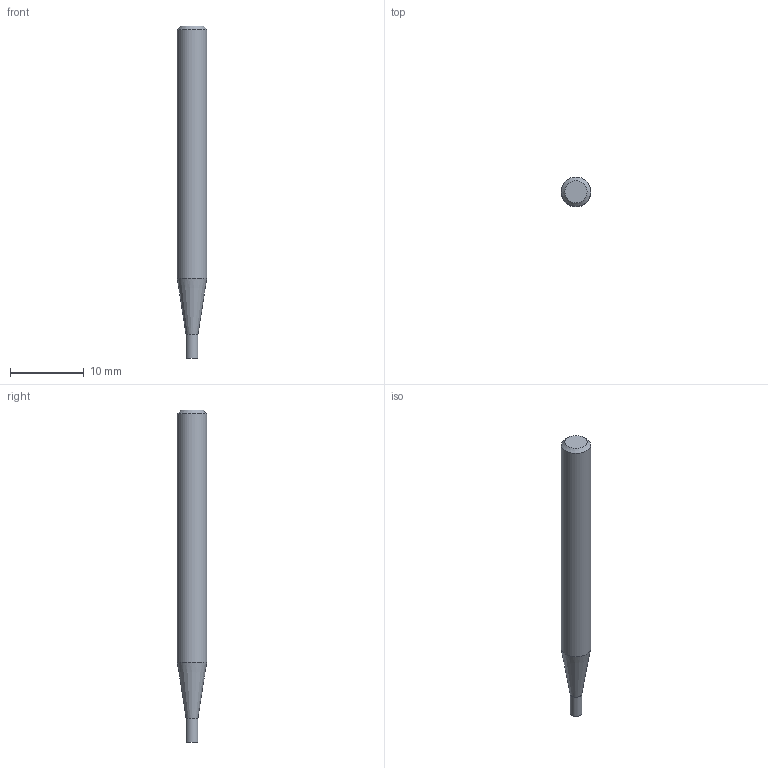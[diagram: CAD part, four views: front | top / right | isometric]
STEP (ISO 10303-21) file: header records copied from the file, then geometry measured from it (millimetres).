
FILE_DESCRIPTION((''),'2;1');
FILE_NAME('C:\Users\nsx150\AppData\Local\Temp\Mastercam 2021\QTW1OOEEGF\TEMP.step','2021-04-08T10:36:26',(''),(''),'STEP Write','Mastercam 2021 ... CNC Software, Inc.','');
FILE_SCHEMA(('AUTOMOTIVE_DESIGN'));
Length unit declared in the file: millimetre
Products named in the file (1): None
Bounding box: 4 x 4 x 45 mm (x, y, z)
Volume: 484.6 mm3; surface area: 528.2 mm2
Topology: 2 solids, 2 shells, 8 faces, 10 edges, 6 vertices
Faces by surface type: plane 4, cylinder 2, cone 2
Full cylindrical faces by diameter (mm): 1.6 x1, 4 x1
Entity records: 190 total; most frequent: DIRECTION 32, CARTESIAN_POINT 22, AXIS2_PLACEMENT_3D 16, ORIENTED_EDGE 12, EDGE_LOOP 12, STYLED_ITEM 11, ADVANCED_FACE 8, VERTEX_POINT 6
